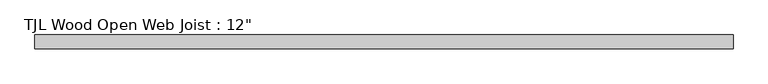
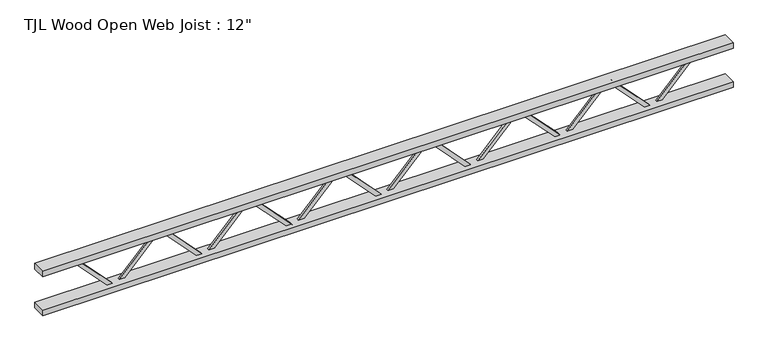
"""IFC4 building model written with IfcOpenShell, lengths in millimetres: beam geometry."""

from ifc_helpers import new_model, si_unit, frame, origin, place, context, project, spatial, polyline, outline, extrude, source, transform, mapped, element, save


def beam_0f9f2495(model_context):
    return source(origin(), model_context, "Body", "SweptSolid", [
        extrude(outline(polyline([(119.0625, 1442.3571429), (144.4625, 1442.3571429), (144.4625, 1424.205228), (-119.0625, 1173.8337994), (-119.0625, 1128.4857143), (-144.4625, 1128.4857143), (-144.4625, 1184.7376292), (119.0625, 1435.1090578), (119.0625, 1442.3571429)])), frame((0.0, 0.0, 0.0), z_axis=(0.0, 1.0, 0.0), x_axis=(0.0, 0.0, 1.0)), (0.0, 0.0, 1.0), 12.7),
        extrude(outline(polyline([(144.4625, 865.4142857), (119.0625, 865.4142857), (119.0625, 872.6623708), (-144.4625, 1123.0337994), (-144.4625, 1179.2857143), (-119.0625, 1179.2857143), (-119.0625, 1133.9376292), (144.4625, 883.5662006), (144.4625, 865.4142857)])), frame((0.0, -12.7, 0.0), z_axis=(0.0, 1.0, 0.0), x_axis=(0.0, 0.0, 1.0)), (0.0, 0.0, 1.0), 12.7),
        extrude(outline(polyline([(119.0625, 865.4142857), (144.4625, 865.4142857), (144.4625, 847.2623708), (-119.0625, 596.8909422), (-119.0625, 551.5428571), (-144.4625, 551.5428571), (-144.4625, 607.794772), (119.0625, 858.1662006), (119.0625, 865.4142857)])), frame((0.0, 0.0, 0.0), z_axis=(0.0, 1.0, 0.0), x_axis=(0.0, 0.0, 1.0)), (0.0, 0.0, 1.0), 12.7),
        extrude(outline(polyline([(144.4625, 288.4714286), (119.0625, 288.4714286), (119.0625, 295.7195137), (-144.4625, 546.0909422), (-144.4625, 602.3428571), (-119.0625, 602.3428571), (-119.0625, 556.994772), (144.4625, 306.6233435), (144.4625, 288.4714286)])), frame((0.0, -12.7, 0.0), z_axis=(0.0, 1.0, 0.0), x_axis=(0.0, 0.0, 1.0)), (0.0, 0.0, 1.0), 12.7),
        extrude(outline(polyline([(119.0625, 288.4714286), (144.4625, 288.4714286), (144.4625, 270.3195137), (-119.0625, 19.9480851), (-119.0625, -25.4), (-144.4625, -25.4), (-144.4625, 30.8519149), (119.0625, 281.2233435), (119.0625, 288.4714286)])), frame((0.0, 0.0, 0.0), z_axis=(0.0, 1.0, 0.0), x_axis=(0.0, 0.0, 1.0)), (0.0, 0.0, 1.0), 12.7),
        extrude(outline(polyline([(144.4625, -288.4714286), (119.0625, -288.4714286), (119.0625, -281.2233435), (-144.4625, -30.8519149), (-144.4625, 25.4), (-119.0625, 25.4), (-119.0625, -19.9480851), (144.4625, -270.3195137), (144.4625, -288.4714286)])), frame((0.0, -12.7, 0.0), z_axis=(0.0, 1.0, 0.0), x_axis=(0.0, 0.0, 1.0)), (0.0, 0.0, 1.0), 12.7),
        extrude(outline(polyline([(119.0625, -288.4714286), (144.4625, -288.4714286), (144.4625, -306.6233435), (-119.0625, -556.994772), (-119.0625, -602.3428571), (-144.4625, -602.3428571), (-144.4625, -546.0909422), (119.0625, -295.7195137), (119.0625, -288.4714286)])), frame((0.0, 0.0, 0.0), z_axis=(0.0, 1.0, 0.0), x_axis=(0.0, 0.0, 1.0)), (0.0, 0.0, 1.0), 12.7),
        extrude(outline(polyline([(144.4625, -865.4142857), (119.0625, -865.4142857), (119.0625, -858.1662006), (-144.4625, -607.794772), (-144.4625, -551.5428571), (-119.0625, -551.5428571), (-119.0625, -596.8909422), (144.4625, -847.2623708), (144.4625, -865.4142857)])), frame((0.0, -12.7, 0.0), z_axis=(0.0, 1.0, 0.0), x_axis=(0.0, 0.0, 1.0)), (0.0, 0.0, 1.0), 12.7),
        extrude(outline(polyline([(119.0625, -865.4142857), (144.4625, -865.4142857), (144.4625, -883.5662006), (-119.0625, -1133.9376292), (-119.0625, -1179.2857143), (-144.4625, -1179.2857143), (-144.4625, -1123.0337994), (119.0625, -872.6623708), (119.0625, -865.4142857)])), frame((0.0, 0.0, 0.0), z_axis=(0.0, 1.0, 0.0), x_axis=(0.0, 0.0, 1.0)), (0.0, 0.0, 1.0), 12.7),
        extrude(outline(polyline([(144.4625, -1442.3571429), (119.0625, -1442.3571429), (119.0625, -1435.1090578), (-144.4625, -1184.7376292), (-144.4625, -1128.4857143), (-119.0625, -1128.4857143), (-119.0625, -1173.8337994), (144.4625, -1424.205228), (144.4625, -1442.3571429)])), frame((0.0, -12.7, 0.0), z_axis=(0.0, 1.0, 0.0), x_axis=(0.0, 0.0, 1.0)), (0.0, 0.0, 1.0), 12.7),
        extrude(outline(polyline([(119.0625, 2019.3), (144.4625, 2019.3), (144.4625, 2001.1480851), (-119.0625, 1750.7766565), (-119.0625, 1705.4285714), (-144.4625, 1705.4285714), (-144.4625, 1761.6804863), (119.0625, 2012.0519149), (119.0625, 2019.3)])), frame((0.0, 0.0, 0.0), z_axis=(0.0, 1.0, 0.0), x_axis=(0.0, 0.0, 1.0)), (0.0, 0.0, 1.0), 12.7),
        extrude(outline(polyline([(144.4625, 1442.3571429), (119.0625, 1442.3571429), (119.0625, 1449.605228), (-144.4625, 1699.9766565), (-144.4625, 1756.2285714), (-119.0625, 1756.2285714), (-119.0625, 1710.8804863), (144.4625, 1460.5090578), (144.4625, 1442.3571429)])), frame((0.0, -12.7, 0.0), z_axis=(0.0, 1.0, 0.0), x_axis=(0.0, 0.0, 1.0)), (0.0, 0.0, 1.0), 12.7),
        extrude(outline(polyline([(119.0625, -1442.3571429), (144.4625, -1442.3571429), (144.4625, -1460.5090578), (-119.0625, -1710.8804863), (-119.0625, -1756.2285714), (-144.4625, -1756.2285714), (-144.4625, -1699.9766565), (119.0625, -1449.605228), (119.0625, -1442.3571429)])), frame((0.0, 0.0, 0.0), z_axis=(0.0, 1.0, 0.0), x_axis=(0.0, 0.0, 1.0)), (0.0, 0.0, 1.0), 12.7),
        extrude(outline(polyline([(144.4625, -2019.3), (119.0625, -2019.3), (119.0625, -2012.0519149), (-144.4625, -1761.6804863), (-144.4625, -1705.4285714), (-119.0625, -1705.4285714), (-119.0625, -1750.7766565), (144.4625, -2001.1480851), (144.4625, -2019.3)])), frame((0.0, -12.7, 0.0), z_axis=(0.0, 1.0, 0.0), x_axis=(0.0, 0.0, 1.0)), (0.0, 0.0, 1.0), 12.7),
        extrude(outline(polyline([(2222.5, 44.45), (2222.5, -44.45), (-2222.5, -44.45), (-2222.5, 44.45), (2222.5, 44.45)])), frame((0.0, 0.0, 112.7125), z_axis=(0.0, 0.0, 1.0), x_axis=(1.0, 0.0, 0.0)), (0.0, 0.0, 1.0), 38.1),
        extrude(outline(polyline([(2222.5, 44.45), (2222.5, -44.45), (-2222.5, -44.45), (-2222.5, 44.45), (2222.5, 44.45)])), frame((0.0, 0.0, -150.8125), z_axis=(0.0, 0.0, 1.0), x_axis=(1.0, 0.0, 0.0)), (0.0, 0.0, 1.0), 38.1),
    ])


if __name__ == "__main__":
    model = new_model("IFC4")
    model_context = context("Model", 3, world=origin())
    ifc_project = project(units=[si_unit("LENGTHUNIT", "METRE", prefix="MILLI")], contexts=[model_context])
    site = spatial("IfcSite", under=ifc_project)
    building = spatial("IfcBuilding", under=site)
    placement = place(None, origin())
    beam_shape = beam_0f9f2495(model_context)
    element("IfcBeam", 1, ObjectType="TJL Wood Open Web Joist : 12\"", at=placement, inside=building, context=model_context, shape_type="MappedRepresentation", body=[
        mapped(beam_shape, transform((0.0, 0.0, 0.0), x_axis=(1.0, 0.0, 0.0), y_axis=(0.0, 1.0, 0.0), z_axis=(0.0, 0.0, 1.0))),
    ])
    save(model, "model.ifc")
